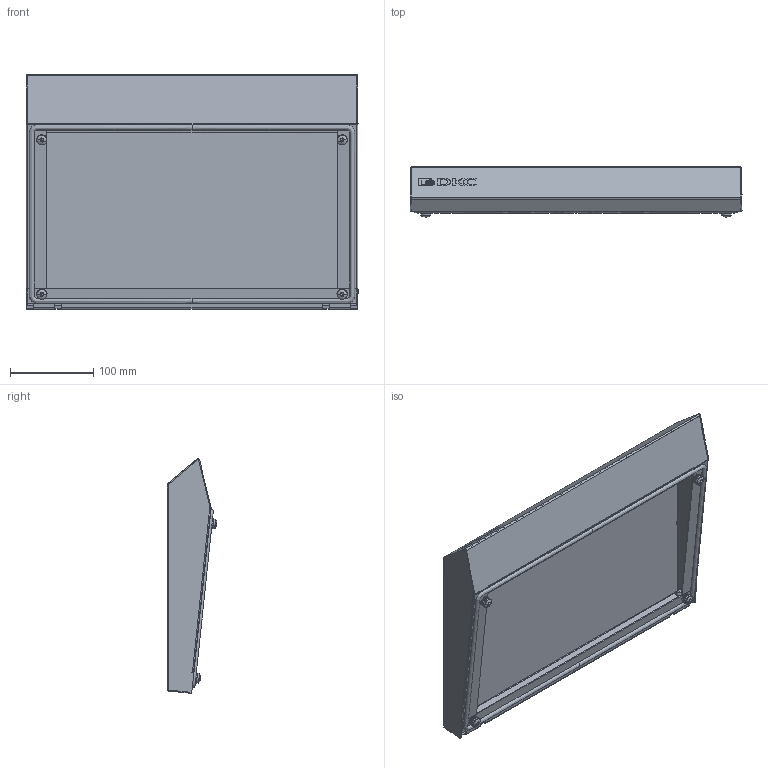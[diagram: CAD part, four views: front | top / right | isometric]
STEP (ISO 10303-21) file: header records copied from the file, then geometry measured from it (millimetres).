
FILE_DESCRIPTION (( 'STEP AP214' ), '1' );
FILE_NAME ('R5NTT049.STEP', '2025-06-25T13:49:45', ( '' ), ( '' ), 'SwSTEP 2.0', 'SolidWorks 2022', '' );
FILE_SCHEMA (( 'AUTOMOTIVE_DESIGN' ));
Length unit declared in the file: millimetre
Products named in the file (6): M6x16 DIN 7985 Torx cl.8,8 Zinc_stright; M6 MGS-MPO-0635_straight 1,5; RB.3481.00.01.0_-07; PF 3x6 R5NTT_-07; R5NTT049; 6 DIN 125 A Plastic
Assembly tree (14 placements, depth 2):
  R5NTT049
    RB.3481.00.01.0_-07
    M6 MGS-MPO-0635_straight 1,5  x4
    PF 3x6 R5NTT_-07
    6 DIN 125 A Plastic  x4
    M6x16 DIN 7985 Torx cl.8,8 Zinc_stright  x4
Bounding box: 400 x 60.22 x 282.67 mm (x, y, z)
Volume: 259177.2 mm3; surface area: 422436.8 mm2
Topology: 14 solids, 14 shells, 603 faces, 1463 edges, 860 vertices
Faces by surface type: plane 261, cylinder 180, bspline 58, sphere 56, torus 24, cone 24
Entity records: 13988 total; most frequent: CARTESIAN_POINT 4899, ORIENTED_EDGE 1710, DIRECTION 1467, EDGE_CURVE 855, LINE 593, VECTOR 593, VERTEX_POINT 539, AXIS2_PLACEMENT_3D 437
